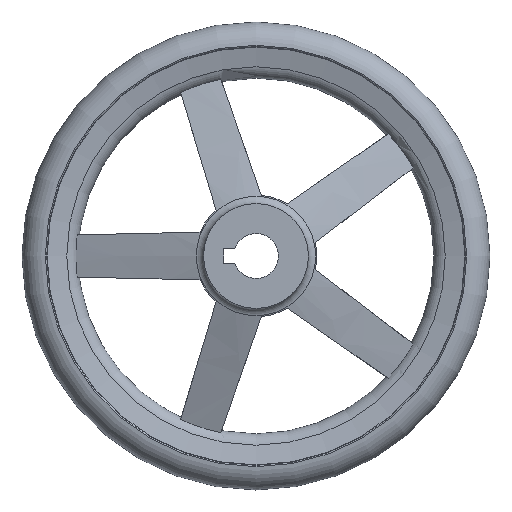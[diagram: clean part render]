
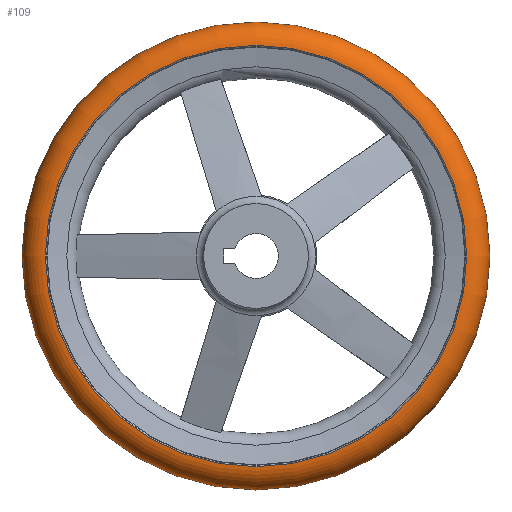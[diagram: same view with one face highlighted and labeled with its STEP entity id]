
A CAD part, left-side view. The second image highlights one B-rep face of the part: STEP entity #109.
In plain terms, the highlighted toroidal (fillet/blend) face has major radius 112 mm and minor radius 13 mm.
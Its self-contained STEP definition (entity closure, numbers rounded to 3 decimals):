
#109 = ADVANCED_FACE( '', ( #206, #207, #208 ), #209, .T. );
#206 = FACE_BOUND( '', #318, .T. );
#207 = FACE_OUTER_BOUND( '', #319, .T. );
#208 = FACE_OUTER_BOUND( '', #320, .T. );
#209 = TOROIDAL_SURFACE( '', #321, 112., 13. );
#318 = VERTEX_LOOP( '', #634 );
#319 = EDGE_LOOP( '', ( #635 ) );
#320 = EDGE_LOOP( '', ( #636 ) );
#321 = AXIS2_PLACEMENT_3D( '', #637, #638, #639 );
#634 = VERTEX_POINT( '', #796 );
#635 = ORIENTED_EDGE( '', *, *, #795, .T. );
#636 = ORIENTED_EDGE( '', *, *, #797, .F. );
#637 = CARTESIAN_POINT( '', ( 53., 0., 0. ) );
#638 = DIRECTION( '', ( 1., 0., 0. ) );
#639 = DIRECTION( '', ( 0., 1., 0. ) );
#795 = EDGE_CURVE( '', #978, #978, #979, .T. );
#796 = CARTESIAN_POINT( '', ( 53., 125., 0. ) );
#797 = EDGE_CURVE( '', #980, #980, #981, .T. );
#978 = VERTEX_POINT( '', #1557 );
#979 = CIRCLE( '', #1558, 112.542 );
#980 = VERTEX_POINT( '', #1559 );
#981 = CIRCLE( '', #1560, 112.542 );
#1557 = CARTESIAN_POINT( '', ( 40.011, 112.542, 0. ) );
#1558 = AXIS2_PLACEMENT_3D( '', #1719, #1720, #1721 );
#1559 = CARTESIAN_POINT( '', ( 65.989, 112.542, 0. ) );
#1560 = AXIS2_PLACEMENT_3D( '', #1722, #1723, #1724 );
#1719 = CARTESIAN_POINT( '', ( 40.011, 0., 0. ) );
#1720 = DIRECTION( '', ( 1., 0., 0. ) );
#1721 = DIRECTION( '', ( 0., 1., 0. ) );
#1722 = CARTESIAN_POINT( '', ( 65.989, 0., 0. ) );
#1723 = DIRECTION( '', ( 1., 0., 0. ) );
#1724 = DIRECTION( '', ( 0., 1., 0. ) );
